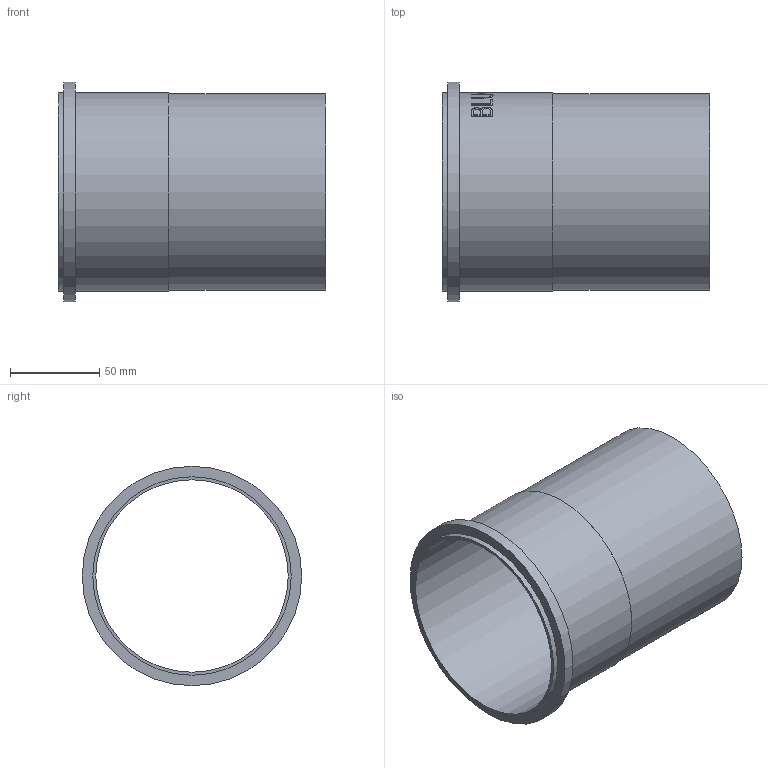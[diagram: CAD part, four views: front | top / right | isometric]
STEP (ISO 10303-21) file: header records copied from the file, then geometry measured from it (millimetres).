
FILE_DESCRIPTION((''),'2;1');
FILE_NAME('I:\WATTS\3D_CAD\3D_CAD_Models\Blucher_Drains\P_StraightPipe\WebsiteFiles\3D\STEP\P4-0.5-316.stp','2009-12-02T14:15:08',('menesek'),(''),'Autodesk Inventor 2010','Autodesk Inventor 2010','');
FILE_SCHEMA(('AUTOMOTIVE_DESIGN { 1 0 10303 214 1 1 1 1 }'));
Length unit declared in the file: inch
Products named in the file (1): P4-0.5-316
Bounding box: 150 x 122.94 x 122.94 mm (x, y, z)
Volume: 79408.9 mm3; surface area: 108724.9 mm2
Topology: 1 solids, 1 shells, 109 faces, 285 edges, 190 vertices
Faces by surface type: plane 59, bspline 34, cylinder 16
Full cylindrical faces by diameter (mm): 107.95 x1, 109.982 x1, 111.252 x2, 122.936 x1
Entity records: 13900 total; most frequent: CARTESIAN_POINT 11522, ORIENTED_EDGE 548, DIRECTION 356, EDGE_CURVE 274, VERTEX_POINT 186, EDGE_LOOP 128, AXIS2_PLACEMENT_3D 120, VECTOR 116
